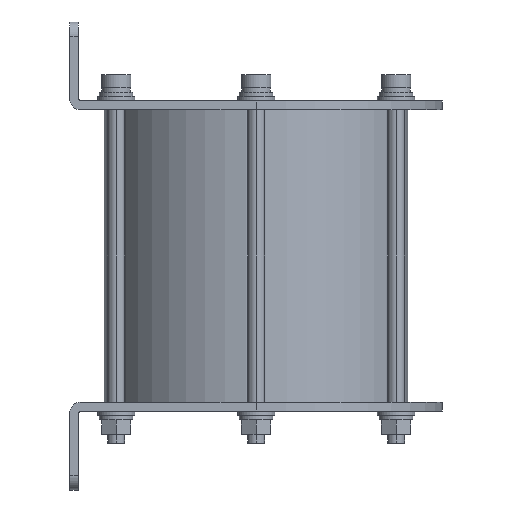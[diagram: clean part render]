
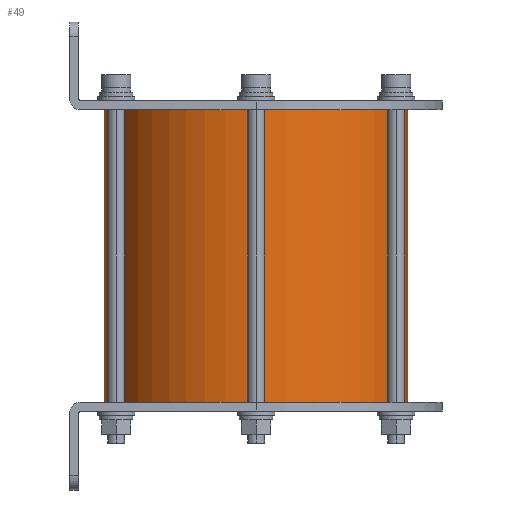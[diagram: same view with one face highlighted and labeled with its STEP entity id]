
A CAD part, front view. The second image highlights one B-rep face of the part: STEP entity #49.
In plain terms, the highlighted free-form (B-spline) face has degree [5, 1] with [15, 2] control points.
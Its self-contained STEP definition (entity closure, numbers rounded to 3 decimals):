
#49=ADVANCED_FACE('Corps principal',(#402),#403,.T.);
#402=FACE_OUTER_BOUND('',#1189,.T.);
#403=B_SPLINE_SURFACE_WITH_KNOTS('',5,1,((#1190,#1191),(#1192,#1193),(#1194,#1195),(#1196,#1197),(#1198,#1199),(#1200,#1201),(#1202,#1203),(#1204,#1205),(#1206,#1207),(#1208,#1209),(#1210,#1211),(#1212,#1213),(#1214,#1215),(#1216,#1217),(#1218,#1219)),.UNSPECIFIED.,.F.,.F.,.F.,(6,3,3,3,6),(2,2),(1630.487,2038.108,2445.73,2853.352,3260.973),(-500.0,500.0),.UNSPECIFIED.);
#1189=EDGE_LOOP('',(#4204,#4205,#4206,#4207));
#1190=CARTESIAN_POINT('',(-51.9,0.,-50.0));
#1191=CARTESIAN_POINT('',(-51.9,0.,50.0));
#1192=CARTESIAN_POINT('',(-51.9,-8.152,-50.0));
#1193=CARTESIAN_POINT('',(-51.9,-8.152,50.0));
#1194=CARTESIAN_POINT('',(-50.3,-16.305,-50.0));
#1195=CARTESIAN_POINT('',(-50.3,-16.305,50.0));
#1196=CARTESIAN_POINT('',(-47.096,-24.038,-50.0));
#1197=CARTESIAN_POINT('',(-47.096,-24.038,50.0));
#1198=CARTESIAN_POINT('',(-37.83,-37.83,-50.0));
#1199=CARTESIAN_POINT('',(-37.83,-37.83,50.0));
#1200=CARTESIAN_POINT('',(-24.038,-47.096,-50.0));
#1201=CARTESIAN_POINT('',(-24.038,-47.096,50.0));
#1202=CARTESIAN_POINT('',(-16.305,-50.3,-50.0));
#1203=CARTESIAN_POINT('',(-16.305,-50.3,50.0));
#1204=CARTESIAN_POINT('',(0.,-53.5,-50.0));
#1205=CARTESIAN_POINT('',(0.,-53.5,50.0));
#1206=CARTESIAN_POINT('',(16.305,-50.3,-50.0));
#1207=CARTESIAN_POINT('',(16.305,-50.3,50.0));
#1208=CARTESIAN_POINT('',(24.038,-47.096,-50.0));
#1209=CARTESIAN_POINT('',(24.038,-47.096,50.0));
#1210=CARTESIAN_POINT('',(37.83,-37.83,-50.0));
#1211=CARTESIAN_POINT('',(37.83,-37.83,50.0));
#1212=CARTESIAN_POINT('',(47.096,-24.038,-50.0));
#1213=CARTESIAN_POINT('',(47.096,-24.038,50.0));
#1214=CARTESIAN_POINT('',(50.3,-16.305,-50.0));
#1215=CARTESIAN_POINT('',(50.3,-16.305,50.0));
#1216=CARTESIAN_POINT('',(51.9,-8.152,-50.0));
#1217=CARTESIAN_POINT('',(51.9,-8.152,50.0));
#1218=CARTESIAN_POINT('',(51.9,0.,-50.0));
#1219=CARTESIAN_POINT('',(51.9,0.,50.0));
#4204=ORIENTED_EDGE('',*,*,#6491,.T.);
#4205=ORIENTED_EDGE('',*,*,#6492,.F.);
#4206=ORIENTED_EDGE('',*,*,#6493,.F.);
#4207=ORIENTED_EDGE('',*,*,#6494,.T.);
#6491=EDGE_CURVE('',#7312,#7313,#7314,.T.);
#6492=EDGE_CURVE('',#7315,#7313,#7316,.T.);
#6493=EDGE_CURVE('',#7317,#7315,#7318,.T.);
#6494=EDGE_CURVE('',#7317,#7312,#7319,.T.);
#7312=VERTEX_POINT('',#8679);
#7313=VERTEX_POINT('',#8680);
#7314=B_SPLINE_CURVE_WITH_KNOTS('',1,(#8681,#8682),.UNSPECIFIED.,.F.,.F.,(2,2),(-500.0,500.0),.UNSPECIFIED.);
#7315=VERTEX_POINT('',#8683);
#7316=B_SPLINE_CURVE_WITH_KNOTS('',5,(#8684,#8685,#8686,#8687,#8688,#8689,#8690,#8691,#8692,#8693,#8694,#8695,#8696,#8697,#8698),.UNSPECIFIED.,.F.,.F.,(6,3,3,3,6),(1630.487,2038.108,2445.73,2853.352,3260.973),.UNSPECIFIED.);
#7317=VERTEX_POINT('',#8699);
#7318=B_SPLINE_CURVE_WITH_KNOTS('',1,(#8700,#8701),.UNSPECIFIED.,.F.,.F.,(2,2),(-500.0,500.0),.UNSPECIFIED.);
#7319=B_SPLINE_CURVE_WITH_KNOTS('',5,(#8702,#8703,#8704,#8705,#8706,#8707,#8708,#8709,#8710,#8711,#8712,#8713,#8714,#8715,#8716),.UNSPECIFIED.,.F.,.F.,(6,3,3,3,6),(1630.487,2038.108,2445.73,2853.352,3260.973),.UNSPECIFIED.);
#8679=CARTESIAN_POINT('',(51.9,0.,-50.0));
#8680=CARTESIAN_POINT('',(51.9,0.,50.0));
#8681=CARTESIAN_POINT('',(51.9,0.,-50.0));
#8682=CARTESIAN_POINT('',(51.9,0.,50.0));
#8683=CARTESIAN_POINT('',(-51.9,0.,50.0));
#8684=CARTESIAN_POINT('',(-51.9,0.,50.0));
#8685=CARTESIAN_POINT('',(-51.9,-8.152,50.0));
#8686=CARTESIAN_POINT('',(-50.299,-16.305,50.0));
#8687=CARTESIAN_POINT('',(-47.096,-24.038,50.0));
#8688=CARTESIAN_POINT('',(-37.831,-37.831,50.0));
#8689=CARTESIAN_POINT('',(-24.038,-47.096,50.0));
#8690=CARTESIAN_POINT('',(-16.305,-50.299,50.0));
#8691=CARTESIAN_POINT('',(0.,-53.501,50.0));
#8692=CARTESIAN_POINT('',(16.305,-50.299,50.0));
#8693=CARTESIAN_POINT('',(24.038,-47.096,50.0));
#8694=CARTESIAN_POINT('',(37.831,-37.831,50.0));
#8695=CARTESIAN_POINT('',(47.096,-24.038,50.0));
#8696=CARTESIAN_POINT('',(50.299,-16.305,50.0));
#8697=CARTESIAN_POINT('',(51.9,-8.152,50.0));
#8698=CARTESIAN_POINT('',(51.9,0.,50.0));
#8699=CARTESIAN_POINT('',(-51.9,0.,-50.0));
#8700=CARTESIAN_POINT('',(-51.9,0.,-50.0));
#8701=CARTESIAN_POINT('',(-51.9,0.,50.0));
#8702=CARTESIAN_POINT('',(-51.9,0.,-50.0));
#8703=CARTESIAN_POINT('',(-51.9,-8.152,-50.0));
#8704=CARTESIAN_POINT('',(-50.299,-16.305,-50.0));
#8705=CARTESIAN_POINT('',(-47.096,-24.038,-50.0));
#8706=CARTESIAN_POINT('',(-37.831,-37.831,-50.0));
#8707=CARTESIAN_POINT('',(-24.038,-47.096,-50.0));
#8708=CARTESIAN_POINT('',(-16.305,-50.299,-50.0));
#8709=CARTESIAN_POINT('',(0.,-53.501,-50.0));
#8710=CARTESIAN_POINT('',(16.305,-50.299,-50.0));
#8711=CARTESIAN_POINT('',(24.038,-47.096,-50.0));
#8712=CARTESIAN_POINT('',(37.831,-37.831,-50.0));
#8713=CARTESIAN_POINT('',(47.096,-24.038,-50.0));
#8714=CARTESIAN_POINT('',(50.299,-16.305,-50.0));
#8715=CARTESIAN_POINT('',(51.9,-8.152,-50.0));
#8716=CARTESIAN_POINT('',(51.9,0.,-50.0));
